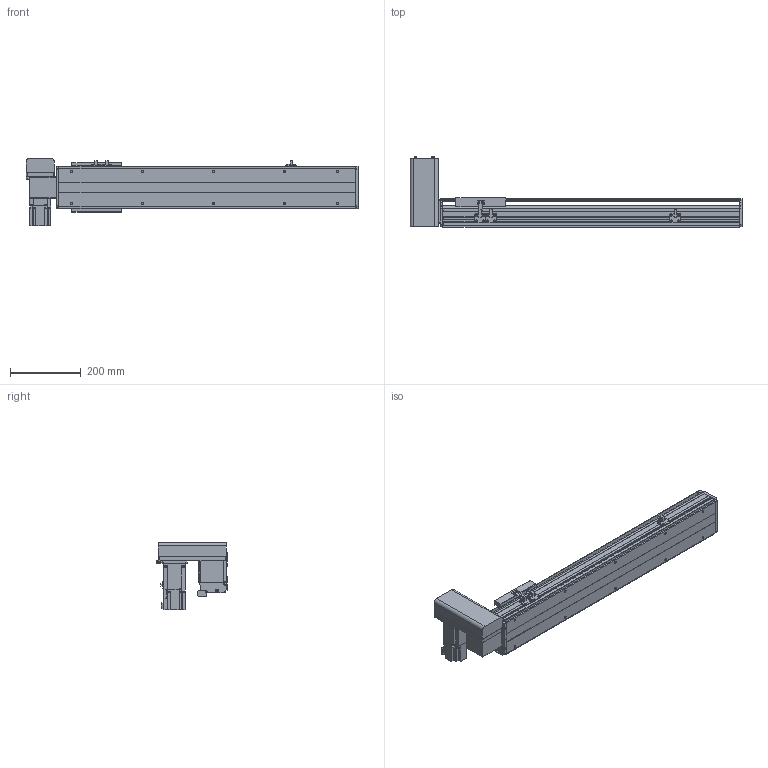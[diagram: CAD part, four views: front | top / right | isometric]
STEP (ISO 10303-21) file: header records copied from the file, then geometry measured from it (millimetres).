
FILE_DESCRIPTION( ( 'STEP AP214' ), '1' );
FILE_NAME( 'x:/temp/worker_27/temp/exporttempdir_6708_226_0Ip2u/format_0/PBS120-P40-S550-RU-T40-C1-N(0).stp', '2022-06-06T00:48:59', ( 'License CC BY-ND 4.0' ), ( 'CADENAS' ), ' ', 'PARTsolutions', ' ' );
FILE_SCHEMA( ( 'AUTOMOTIVE_DESIGN { 1 0 10303 214 1 1 1 1 }' ) );
Length unit declared in the file: millimetre
Products named in the file (7): PBS120-P40-S550-RU-T40-C1-N(0); _PBS120-S550()_body; _PBS120T-RU_motors; _T40-p1; _PBS120_sliser; _PBS120_plant; _PBS120_sensor
Assembly tree (8 placements, depth 2):
  PBS120-P40-S550-RU-T40-C1-N(0)
    _PBS120-S550()_body
    _PBS120T-RU_motors
    _T40-p1
    _PBS120_sliser
    _PBS120_plant
    _PBS120_sensor  x3
Bounding box: 936 x 198 x 189.7 mm (x, y, z)
Volume: 4496567.9 mm3; surface area: 840564.5 mm2
Topology: 8 solids, 8 shells, 810 faces, 2126 edges, 1369 vertices
Faces by surface type: plane 543, cylinder 223, cone 42, torus 2
Full cylindrical faces by diameter (mm): 2.459 x6, 3.242 x4, 4 x2, 4.134 x4, 4.5 x10, 4.917 x14, 5.5 x11, 6 x2, 6.6 x1, 7 x2, 8.5 x4, 9 x4, 12 x1, 14 x1, 30 x2, 40 x1, 50 x2
Entity records: 26820 total; most frequent: DIRECTION 3668, CARTESIAN_POINT 3623, ORIENTED_EDGE 3466, EDGE_CURVE 1733, LINE 1228, VECTOR 1228, AXIS2_PLACEMENT_3D 1220, VERTEX_POINT 1175
